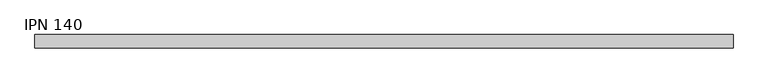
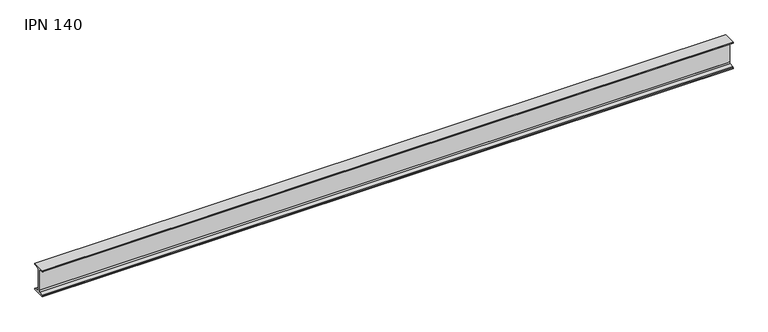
"""IFC4 building model written with IfcOpenShell, lengths in millimetres: beam geometry, IPN - Secciones en I con alas cónicas : IPN 140."""

from ifc_helpers import new_model, si_unit, point, frame, frame_2d, origin, place, context, project, spatial, polyline, circle_curve, trimmed, segment, composite_curve, outline, extrude, source, transform, mapped, element, save


def ipn_140_cea704c2(model_context):
    return source(origin(), model_context, "Body", "SweptSolid", [
        extrude(outline(composite_curve([segment(polyline([(33.0, 70.0), (33.0, 66.6671583)]), True, "CONTINUOUS"), segment(trimmed(circle_curve(frame_2d((29.6, 66.6671583)), 3.4), [point((33.0, 66.6671583))], [point((30.0714027, 63.2999964))], False, "CARTESIAN"), True, "CONTINUOUS"), segment(polyline([(30.0714027, 63.2999964), (7.7597073, 60.176359)]), True, "CONTINUOUS"), segment(trimmed(circle_curve(frame_2d((8.55, 54.5314111)), 5.7), [point((7.7597073, 60.176359))], [point((2.85, 54.5314111))], True, "CARTESIAN"), True, "CONTINUOUS"), segment(polyline([(2.85, 54.5314111), (2.85, -54.5314111)]), True, "CONTINUOUS"), segment(trimmed(circle_curve(frame_2d((8.55, -54.5314111)), 5.7), [point((2.85, -54.5314111))], [point((7.7597073, -60.176359))], True, "CARTESIAN"), True, "CONTINUOUS"), segment(polyline([(7.7597073, -60.176359), (30.0714027, -63.2999964)]), True, "CONTINUOUS"), segment(trimmed(circle_curve(frame_2d((29.6, -66.6671583)), 3.4), [point((30.0714027, -63.2999964))], [point((33.0, -66.6671583))], False, "CARTESIAN"), True, "CONTINUOUS"), segment(polyline([(33.0, -66.6671583), (33.0, -70.0), (-33.0, -70.0), (-33.0, -66.6671583)]), True, "CONTINUOUS"), segment(trimmed(circle_curve(frame_2d((-29.6, -66.6671583)), 3.4), [point((-33.0, -66.6671583))], [point((-30.0714027, -63.2999964))], False, "CARTESIAN"), True, "CONTINUOUS"), segment(polyline([(-30.0714027, -63.2999964), (-7.7597073, -60.176359)]), True, "CONTINUOUS"), segment(trimmed(circle_curve(frame_2d((-8.55, -54.5314111)), 5.7), [point((-7.7597073, -60.176359))], [point((-2.85, -54.5314111))], True, "CARTESIAN"), True, "CONTINUOUS"), segment(polyline([(-2.85, -54.5314111), (-2.85, 54.5314111)]), True, "CONTINUOUS"), segment(trimmed(circle_curve(frame_2d((-8.55, 54.5314111)), 5.7), [point((-2.85, 54.5314111))], [point((-7.7597073, 60.176359))], True, "CARTESIAN"), True, "CONTINUOUS"), segment(polyline([(-7.7597073, 60.176359), (-30.0714027, 63.2999964)]), True, "CONTINUOUS"), segment(trimmed(circle_curve(frame_2d((-29.6, 66.6671583)), 3.4), [point((-30.0714027, 63.2999964))], [point((-33.0, 66.6671583))], False, "CARTESIAN"), True, "CONTINUOUS"), segment(polyline([(-33.0, 66.6671583), (-33.0, 70.0), (33.0, 70.0)]), True, "CONTINUOUS")], self_intersect=False)), frame((-1745.0, 0.0, 0.0), z_axis=(1.0, 0.0, 0.0), x_axis=(0.0, 1.0, 0.0)), (0.0, 0.0, 1.0), 3493.0),
    ])


if __name__ == "__main__":
    model = new_model("IFC4")
    model_context = context("Model", 3, world=origin())
    ifc_project = project(units=[si_unit("LENGTHUNIT", "METRE", prefix="MILLI")], contexts=[model_context])
    site = spatial("IfcSite", under=ifc_project)
    building = spatial("IfcBuilding", under=site)
    placement = place(None, origin())
    ipn_140_shape = ipn_140_cea704c2(model_context)
    element("IfcBeam", 1, ObjectType="IPN - Secciones en I con alas cónicas : IPN 140", at=placement, inside=building, context=model_context, shape_type="MappedRepresentation", body=[
        mapped(ipn_140_shape, transform((0.0, 0.0, 0.0), x_axis=(1.0, 0.0, 0.0), y_axis=(0.0, 1.0, 0.0), z_axis=(0.0, 0.0, 1.0))),
    ])
    save(model, "model.ifc")
